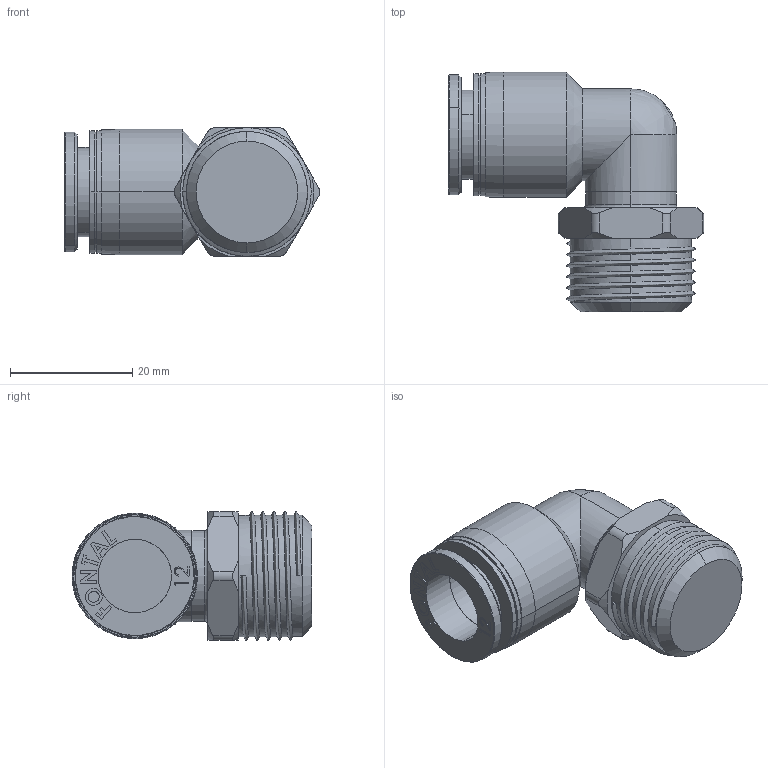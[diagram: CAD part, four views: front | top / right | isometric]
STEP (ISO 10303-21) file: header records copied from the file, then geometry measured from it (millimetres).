
FILE_DESCRIPTION (( 'STEP AP203' ), '1' );
FILE_NAME ('FPL12-04.STEP', '2016-01-14T21:01:41', ( '' ), ( '' ), 'SwSTEP 2.0', 'SolidWorks 2014', '' );
FILE_SCHEMA (( 'CONFIG_CONTROL_DESIGN' ));
Length unit declared in the file: millimetre
Products named in the file (4): FPC12-02-A; FPL12-02-A; FPL10-04-B; FPL12-04
Assembly tree (3 placements, depth 2):
  FPL12-04
    FPL12-02-A
    FPC12-02-A
    FPL10-04-B
Bounding box: 41.74 x 39.19 x 21 mm (x, y, z)
Volume: 12715.6 mm3; surface area: 6218.4 mm2
Topology: 3 solids, 3 shells, 175 faces, 435 edges, 282 vertices
Faces by surface type: plane 89, cylinder 41, cone 22, bspline 17, torus 6
Entity records: 8376 total; most frequent: CARTESIAN_POINT 3993, ORIENTED_EDGE 866, DIRECTION 746, EDGE_CURVE 433, VERTEX_POINT 282, VECTOR 258, LINE 258, AXIS2_PLACEMENT_3D 244
